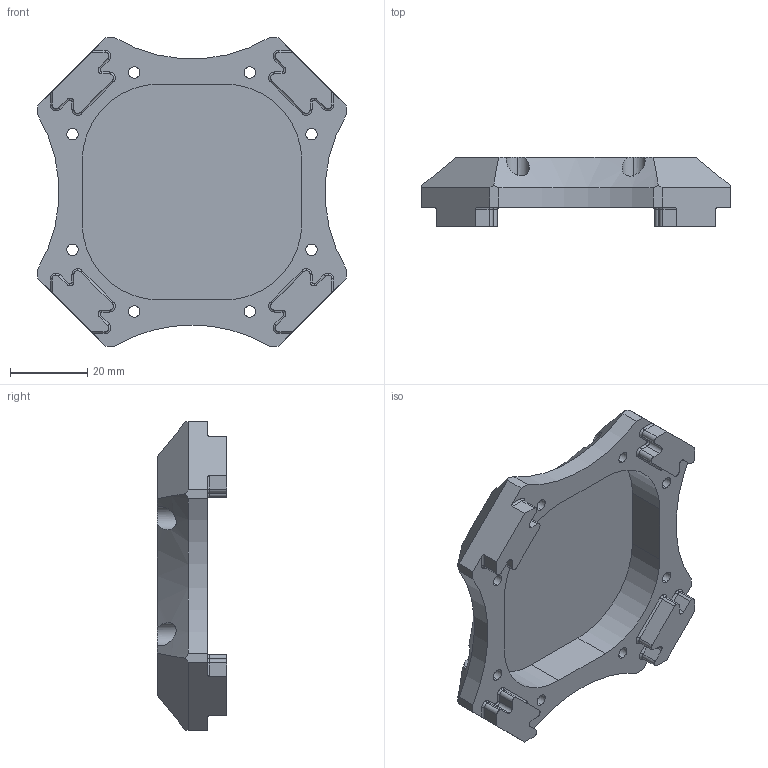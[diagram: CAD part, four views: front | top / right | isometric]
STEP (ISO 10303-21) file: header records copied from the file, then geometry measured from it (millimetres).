
FILE_DESCRIPTION (( 'STEP AP214' ), '1' );
FILE_NAME ('Top Cover.STEP', '2026-03-16T09:58:10', ( '' ), ( '' ), 'SwSTEP 2.0', 'SolidWorks 2026', '' );
FILE_SCHEMA (( 'AUTOMOTIVE_DESIGN' ));
Length unit declared in the file: millimetre
Products named in the file (1): Top Cover
Bounding box: 80 x 18 x 80 mm (x, y, z)
Volume: 31270.8 mm3; surface area: 16760.1 mm2
Topology: 1 solids, 1 shells, 199 faces, 533 edges, 337 vertices
Faces by surface type: cylinder 99, plane 63, torus 32, cone 5
Entity records: 6635 total; most frequent: CARTESIAN_POINT 1498, DIRECTION 1130, ORIENTED_EDGE 1066, EDGE_CURVE 533, AXIS2_PLACEMENT_3D 441, VERTEX_POINT 337, VECTOR 248, LINE 248
